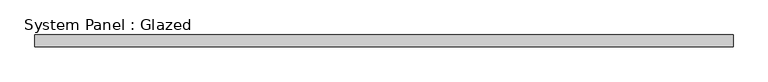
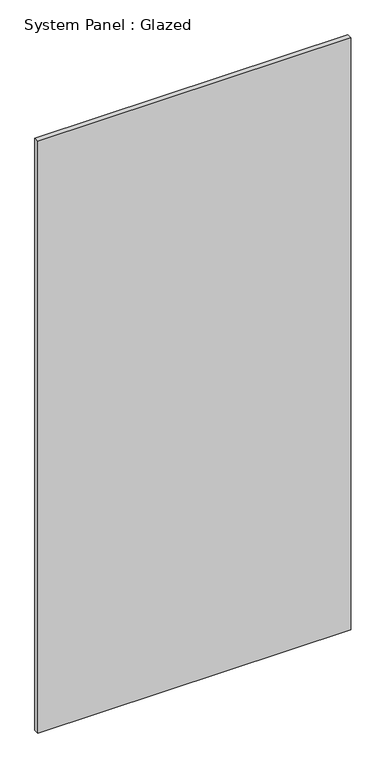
"""IFC4 building model written with IfcOpenShell, lengths in millimetres: plate geometry, System Panel : Glazed."""

import ifcopenshell
import ifcopenshell.guid

model = None  # the IFC model being written
_history = None  # IfcOwnerHistory: only IFC2X3 demands one
_inside = {}  # id of a spatial element -> (the spatial element, [elements in it])
_under = {}  # id of a project, library or spatial element -> (it, [spatial elements below it])
_declared = {}  # id of a project -> (the project, [libraries it declares])
_typed = {}  # id of a type object -> (the type object, [elements of that type])
_made_of = {}  # id of a material, layer set ... -> (it, [elements and type objects made of it])


def new_model(schema):
    """Start an empty IFC model of exactly this schema.

    Asked for "IFC4X3", IfcOpenShell would pick the latest addendum, in which some entities
    have other attributes; the version numbers below select the first issue.
    IFC2X3 requires an IfcOwnerHistory on every rooted entity: one is made here for all.
    """
    global model, _history
    if schema == "IFC4X3":
        model = ifcopenshell.file(schema_version=(4, 3, 0, 0))
    else:
        model = ifcopenshell.file(schema=schema)
    _inside.clear()
    _under.clear()
    _declared.clear()
    _typed.clear()
    _made_of.clear()
    _history = None
    if model.schema == "IFC2X3":
        org = make("IfcOrganization", Name="unknown")
        user = make(
            "IfcPersonAndOrganization",
            ThePerson=make("IfcPerson", FamilyName="unknown"),
            TheOrganization=org,
        )
        app = make(
            "IfcApplication",
            ApplicationDeveloper=org,
            Version="unknown",
            ApplicationFullName="unknown",
            ApplicationIdentifier="unknown",
        )
        _history = make(
            "IfcOwnerHistory",
            OwningUser=user,
            OwningApplication=app,
            ChangeAction="ADDED",
            CreationDate=0,
        )
    return model


def make(cls, **values):
    """One entity of the class cls with the attributes given. An attribute that is None is left unset."""
    return model.create_entity(
        cls, **{name: value for name, value in values.items() if value is not None}
    )


def rooted(cls, **values):
    """An entity with a GlobalId (a new one), such as an element, a storey or a relation."""
    return make(cls, GlobalId=ifcopenshell.guid.new(), OwnerHistory=_history, **values)


def si_unit(unit_type, name, prefix=None):
    """IfcSIUnit, for example si_unit("LENGTHUNIT", "METRE", prefix="MILLI")."""
    return make("IfcSIUnit", UnitType=unit_type, Prefix=prefix, Name=name)


def assignment(units):
    """IfcUnitAssignment: the units of a project."""
    return None if units is None else make("IfcUnitAssignment", Units=units)


def point(xyz):
    """IfcCartesianPoint."""
    return None if xyz is None else make("IfcCartesianPoint", Coordinates=xyz)


def direction(xyz):
    """IfcDirection."""
    return None if xyz is None else make("IfcDirection", DirectionRatios=xyz)


def frame(location, z_axis=None, x_axis=None):
    """IfcAxis2Placement3D, a coordinate frame: its origin and axes. An axis left out is left unset."""
    return make(
        "IfcAxis2Placement3D",
        Location=point(location),
        Axis=direction(z_axis),
        RefDirection=direction(x_axis),
    )


def origin():
    """The frame at (0, 0, 0) with its axes left unset."""
    return frame((0.0, 0.0, 0.0))


def origin_with_axes():
    """The frame at (0, 0, 0) with the z axis (0, 0, 1) and the x axis (1, 0, 0) written out."""
    return frame((0.0, 0.0, 0.0), z_axis=(0.0, 0.0, 1.0), x_axis=(1.0, 0.0, 0.0))


def place(relative_to, where):
    """IfcLocalPlacement: puts the frame where relative to a parent placement (None: the world)."""
    return make(
        "IfcLocalPlacement", PlacementRelTo=relative_to, RelativePlacement=where
    )


def context(
    kind, dimensions, precision=None, world=None, true_north=None, identifier=None
):
    """IfcGeometricRepresentationContext, for example the 3D "Model" context."""
    return make(
        "IfcGeometricRepresentationContext",
        ContextIdentifier=identifier,
        ContextType=kind,
        CoordinateSpaceDimension=dimensions,
        Precision=precision,
        WorldCoordinateSystem=world,
        TrueNorth=true_north,
    )


def project(units=None, contexts=None):
    """IfcProject with its units and contexts."""
    return rooted(
        "IfcProject",
        Name="project",
        RepresentationContexts=contexts,
        UnitsInContext=assignment(units),
    )


def spatial(cls, under=None, at=None, **own):
    """A site, building, storey or space (cls), placed at a placement, below another one or the project."""
    s = rooted(cls, ObjectPlacement=at, **own)
    if under is not None:
        _under.setdefault(under.id(), (under, []))[1].append(s)
    return s


def polyline(points):
    """IfcPolyline through the points."""
    return make("IfcPolyline", Points=[point(p) for p in points])


def outline(outer, holes=None, kind="AREA"):
    """IfcArbitraryClosedProfileDef: a profile drawn as a closed curve; with holes, ...WithVoids."""
    if holes is None:
        return make("IfcArbitraryClosedProfileDef", ProfileType=kind, OuterCurve=outer)
    return make(
        "IfcArbitraryProfileDefWithVoids",
        ProfileType=kind,
        OuterCurve=outer,
        InnerCurves=holes,
    )


def extrude(swept, where, along, depth):
    """IfcExtrudedAreaSolid: the profile swept, set in the frame where, extruded along a direction by depth."""
    return make(
        "IfcExtrudedAreaSolid",
        SweptArea=swept,
        Position=where,
        ExtrudedDirection=direction(along),
        Depth=depth,
    )


def shape(context_of_items, identifier, shape_type, items):
    """IfcShapeRepresentation: the items that make up one representation, for example the "Body"."""
    return make(
        "IfcShapeRepresentation",
        ContextOfItems=context_of_items,
        RepresentationIdentifier=identifier,
        RepresentationType=shape_type,
        Items=items,
    )


def source(mapping_origin, context_of_items, identifier, shape_type, items):
    """IfcRepresentationMap: a shape defined once, which mapped items show again and again."""
    return make(
        "IfcRepresentationMap",
        MappingOrigin=mapping_origin,
        MappedRepresentation=shape(context_of_items, identifier, shape_type, items),
    )


def transform(
    local_origin,
    x_axis=None,
    y_axis=None,
    z_axis=None,
    scale=None,
    scale2=None,
    scale3=None,
    uniform=True,
):
    """IfcCartesianTransformationOperator3D, or its non-uniform kind. x_axis, y_axis, z_axis: its Axis1, 2, 3."""
    if uniform:
        return make(
            "IfcCartesianTransformationOperator3D",
            Axis1=direction(x_axis),
            Axis2=direction(y_axis),
            LocalOrigin=point(local_origin),
            Scale=scale,
            Axis3=direction(z_axis),
        )
    return make(
        "IfcCartesianTransformationOperator3DnonUniform",
        Axis1=direction(x_axis),
        Axis2=direction(y_axis),
        LocalOrigin=point(local_origin),
        Scale=scale,
        Axis3=direction(z_axis),
        Scale2=scale2,
        Scale3=scale3,
    )


def mapped(mapping_source, mapping_target):
    """IfcMappedItem: shows the shape of a source again, moved by a transform."""
    return make(
        "IfcMappedItem", MappingSource=mapping_source, MappingTarget=mapping_target
    )


def made_of(thing, what):
    """Note that an element or type object is made of a material, layer set ...; save() writes the relation."""
    if what is not None:
        _made_of.setdefault(what.id(), (what, []))[1].append(thing)
    return thing


def element(
    cls,
    number,
    at=None,
    inside=None,
    cuts=None,
    type_object=None,
    material=None,
    context=None,
    identifier="Body",
    shape_type=None,
    held_by="IfcProductDefinitionShape",
    body=None,
    shapes=None,
    **own,
):
    """One element of the class cls, such as IfcWall. Its Tag is "e" and its number.

    at: its placement. inside: the storey or other place that contains it. cuts: it is an
    opening in that element (IfcRelVoidsElement). A single representation is given by context,
    identifier, shape_type and body (its items); several are given by shapes. held_by: the class
    of the entity that holds the representations. save() writes the other relations.
    """
    e = rooted(cls, Tag="e%d" % number, ObjectPlacement=at, **own)
    if body is not None:
        shapes = [shape(context, identifier, shape_type, body)]
    if shapes is not None:
        e.Representation = make(held_by, Representations=shapes)
    if inside is not None:
        _inside.setdefault(inside.id(), (inside, []))[1].append(e)
    if cuts is not None:
        rooted(
            "IfcRelVoidsElement", RelatingBuildingElement=cuts, RelatedOpeningElement=e
        )
    if type_object is not None:
        _typed.setdefault(type_object.id(), (type_object, []))[1].append(e)
    return made_of(e, material)


def aggregate(whole, parts):
    """IfcRelAggregates: a whole, such as a stair, and the parts it consists of."""
    return rooted("IfcRelAggregates", RelatingObject=whole, RelatedObjects=parts)


def save(model, path):
    """Write the relations noted so far, then the file.

    IfcRelAggregates (storeys below a building ...), IfcRelContainedInSpatialStructure (elements
    in a storey), IfcRelDefinesByType, IfcRelAssociatesMaterial and IfcRelDeclares: one each for
    every whole, place, type object, material and project.
    """
    for whole, parts in _under.values():
        aggregate(whole, parts)
    for where, things in _inside.values():
        rooted(
            "IfcRelContainedInSpatialStructure",
            RelatedElements=things,
            RelatingStructure=where,
        )
    for kind, things in _typed.values():
        rooted("IfcRelDefinesByType", RelatedObjects=things, RelatingType=kind)
    for what, things in _made_of.values():
        rooted("IfcRelAssociatesMaterial", RelatedObjects=things, RelatingMaterial=what)
    for by, libraries in _declared.values():
        rooted("IfcRelDeclares", RelatingContext=by, RelatedDefinitions=libraries)
    model.write(path)


def system_panel_glazed_9c75bc08(model_context):
    return source(origin(), model_context, "Body", "SweptSolid", [
        extrude(outline(polyline([(762.0, -44.45), (-762.0, -44.45), (-762.0, -19.05), (762.0, -19.05), (762.0, -44.45)])), origin_with_axes(), (0.0, 0.0, 1.0), 3048.0),
    ])


if __name__ == "__main__":
    model = new_model("IFC4")
    model_context = context("Model", 3, world=origin())
    ifc_project = project(units=[si_unit("LENGTHUNIT", "METRE", prefix="MILLI")], contexts=[model_context])
    site = spatial("IfcSite", under=ifc_project)
    building = spatial("IfcBuilding", under=site)
    placement = place(None, origin())
    system_panel_glazed_shape = system_panel_glazed_9c75bc08(model_context)
    element("IfcPlate", 1, ObjectType="System Panel : Glazed", at=placement, inside=building, context=model_context, shape_type="MappedRepresentation", body=[
        mapped(system_panel_glazed_shape, transform((0.0, 0.0, 0.0), x_axis=(1.0, 0.0, 0.0), y_axis=(0.0, 1.0, 0.0), z_axis=(0.0, 0.0, 1.0))),
    ])
    save(model, "model.ifc")
